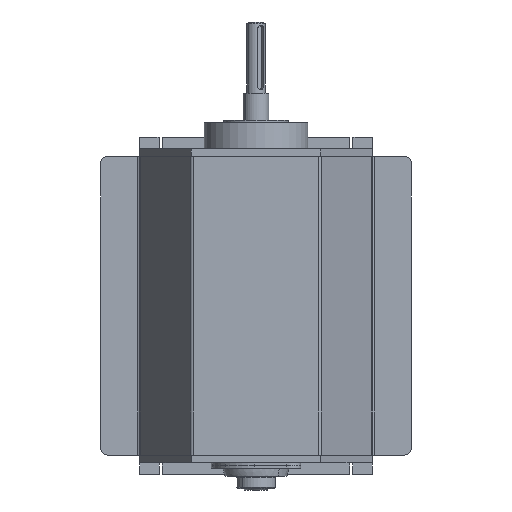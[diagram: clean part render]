
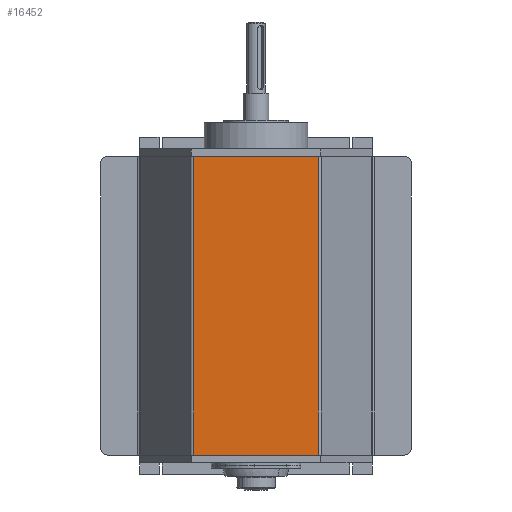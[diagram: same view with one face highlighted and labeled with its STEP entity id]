
A CAD part, front view. The second image highlights one B-rep face of the part: STEP entity #16452.
In plain terms, the highlighted planar face has unit normal (0, -1, 0).
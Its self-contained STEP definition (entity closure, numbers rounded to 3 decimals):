
#228 = EDGE_LOOP ( 'NONE', ( #2962, #2967, #3495, #3247 ) ) ;
#1128 = AXIS2_PLACEMENT_3D ( 'NONE', #13951, #13956, #13957 ) ;
#1453 = EDGE_CURVE ( 'NONE', #5273, #5134, #9747, .T. ) ;
#1601 = VECTOR ( 'NONE', #6790, 1000. ) ;
#1630 = LINE ( 'NONE', #6795, #1601 ) ;
#2042 = EDGE_CURVE ( 'NONE', #5151, #5134, #1630, .T. ) ;
#2044 = EDGE_CURVE ( 'NONE', #5583, #5273, #8232, .T. ) ;
#2051 = EDGE_CURVE ( 'NONE', #5151, #5583, #8174, .T. ) ;
#2962 = ORIENTED_EDGE ( 'NONE', *, *, #2051, .T. ) ;
#2967 = ORIENTED_EDGE ( 'NONE', *, *, #2044, .T. ) ;
#3247 = ORIENTED_EDGE ( 'NONE', *, *, #2042, .F. ) ;
#3495 = ORIENTED_EDGE ( 'NONE', *, *, #1453, .T. ) ;
#5134 = VERTEX_POINT ( 'NONE', #15385 ) ;
#5151 = VERTEX_POINT ( 'NONE', #15402 ) ;
#5273 = VERTEX_POINT ( 'NONE', #15523 ) ;
#5583 = VERTEX_POINT ( 'NONE', #18764 ) ;
#6790 = DIRECTION ( 'NONE',  ( 0., 0., -1. ) ) ;
#6795 = CARTESIAN_POINT ( 'NONE',  ( 48.268, 0., 404.779 ) ) ;
#6800 = CARTESIAN_POINT ( 'NONE',  ( -48.268, 0., 404.779 ) ) ;
#6801 = DIRECTION ( 'NONE',  ( 0., 0., -1. ) ) ;
#6802 = CARTESIAN_POINT ( 'NONE',  ( -50., 0., 115.5 ) ) ;
#6803 = DIRECTION ( 'NONE',  ( -1., 0., 0. ) ) ;
#8155 = VECTOR ( 'NONE', #6801, 1000. ) ;
#8174 = LINE ( 'NONE', #6802, #8189 ) ;
#8189 = VECTOR ( 'NONE', #6803, 1000. ) ;
#8232 = LINE ( 'NONE', #6800, #8155 ) ;
#9432 = VECTOR ( 'NONE', #19373, 1000. ) ;
#9747 = LINE ( 'NONE', #19371, #9432 ) ;
#10659 = FACE_OUTER_BOUND ( 'NONE', #228, .T. ) ;
#13951 = CARTESIAN_POINT ( 'NONE',  ( -50., 0., 404.779 ) ) ;
#13953 = PLANE ( 'NONE',  #1128 ) ;
#13956 = DIRECTION ( 'NONE',  ( 0., 1., 0. ) ) ;
#13957 = DIRECTION ( 'NONE',  ( -1., 0., 0. ) ) ;
#15385 = CARTESIAN_POINT ( 'NONE',  ( 48.268, 0., -115.5 ) ) ;
#15402 = CARTESIAN_POINT ( 'NONE',  ( 48.268, 0., 115.5 ) ) ;
#15523 = CARTESIAN_POINT ( 'NONE',  ( -48.268, 0., -115.5 ) ) ;
#16452 = ADVANCED_FACE ( 'NONE', ( #10659 ), #13953, .F. ) ;
#18764 = CARTESIAN_POINT ( 'NONE',  ( -48.268, 0., 115.5 ) ) ;
#19371 = CARTESIAN_POINT ( 'NONE',  ( -50., 0., -115.5 ) ) ;
#19373 = DIRECTION ( 'NONE',  ( 1., 0., 0. ) ) ;
